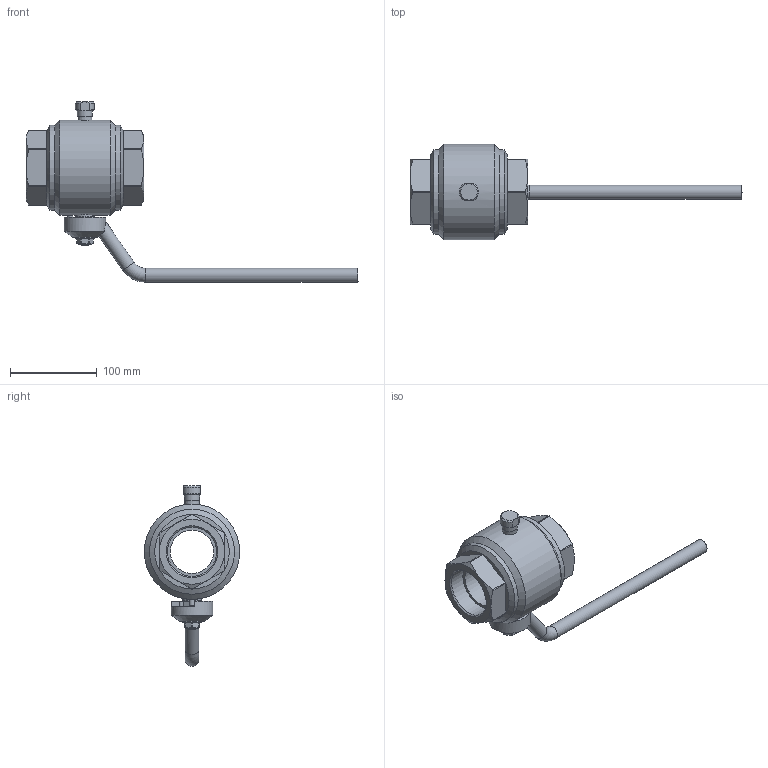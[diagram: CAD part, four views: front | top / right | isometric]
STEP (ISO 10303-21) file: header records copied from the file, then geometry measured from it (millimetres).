
FILE_DESCRIPTION(('STEP AP203'), '1');
FILE_NAME('ZARDP 050.016.10.P.stp', '2013-12-06T07:54:40', ('Øèøêî'), ('ÎÎÎ ÈÊ Ýíåðïðåä-ßðäîñ'), 'ASCON STEP Converter 1.3', 'Kompas 3D', '');
FILE_SCHEMA(('CONFIG_CONTROL_DESIGN','SUPPORT_RESOURCE_SCHEMA'));
Length unit declared in the file: millimetre
Products named in the file (1): 187
Bounding box: 383.01 x 110 x 208 mm (x, y, z)
Volume: 726490.4 mm3; surface area: 112700.7 mm2
Topology: 1 solids, 9 shells, 214 faces, 472 edges, 288 vertices
Faces by surface type: plane 102, cylinder 64, cone 40, torus 8
Full cylindrical faces by diameter (mm): 6 x2, 10 x2, 16 x3, 17.33 x1, 21.8 x1, 22 x2, 48 x1, 50 x2, 56.656 x2, 83.4 x1, 98 x2, 110 x1
Entity records: 8189 total; most frequent: CARTESIAN_POINT 3388, DIRECTION 1020, ORIENTED_EDGE 944, EDGE_CURVE 472, AXIS2_PLACEMENT_3D 410, VERTEX_POINT 288, EDGE_LOOP 234, ADVANCED_FACE 214
